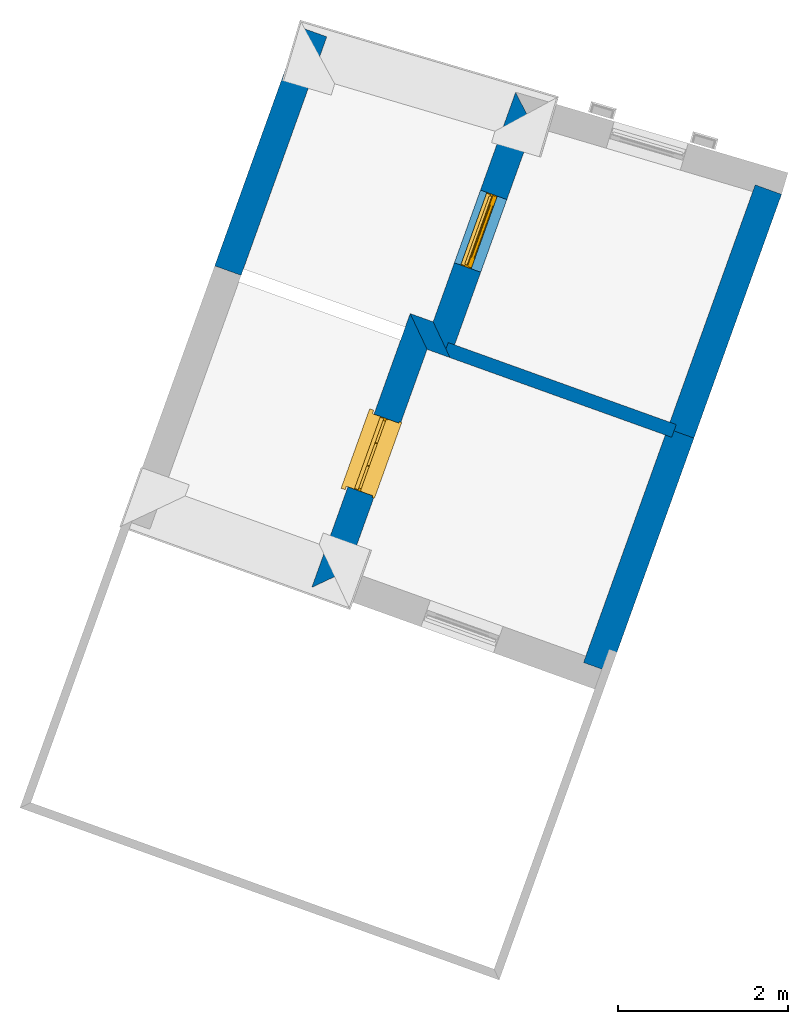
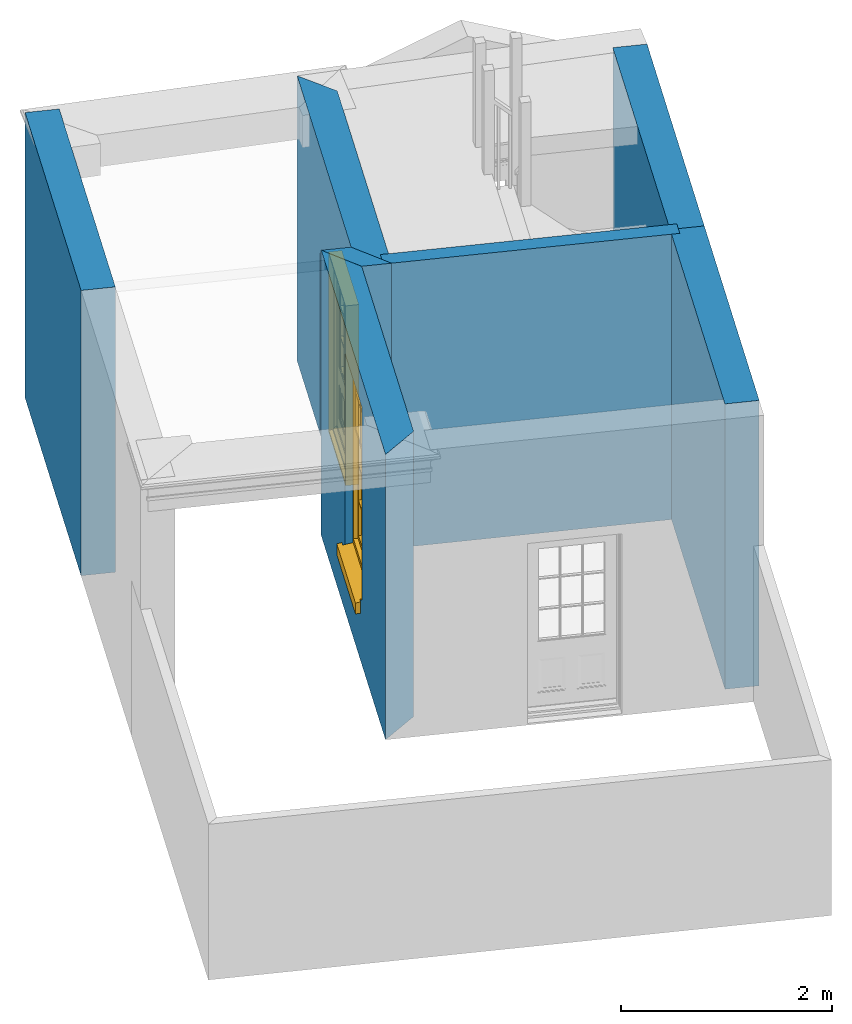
# One storey, part 2 of 4: 7 walls, 1 door, 1 window, 2 openings.
"""IFC4 building model written with IfcOpenShell, lengths in metres."""

from ifc_helpers import new_model, si_unit, frame, origin, origin_with_axes, place, context, subcontext, project, spatial, polyline, outline, extrude, faceted_brep, source, transform, mapped, material, layer, layer_set, layer_usage, type_object, type_shapes, element, fill, save


model = new_model("IFC4")

# Units and contexts
model_context = context("Model", 3, world=origin_with_axes())
body_context = subcontext(model_context, "Body", "Model", "MODEL_VIEW")
ifc_project = project(units=[si_unit("PLANEANGLEUNIT", "RADIAN"), si_unit("MASSUNIT", "GRAM", prefix="KILO"), si_unit("FORCEUNIT", "NEWTON", prefix="KILO"), si_unit("LENGTHUNIT", "METRE"), si_unit("AREAUNIT", "SQUARE_METRE"), si_unit("VOLUMEUNIT", "CUBIC_METRE")], contexts=[model_context, model_context])

# Sites, building, storey
site_1_placement = place(None, origin_with_axes())
site_1 = spatial("IfcSite", under=ifc_project, at=site_1_placement, Name="Tamar")
site_2_placement = place(site_1_placement, origin_with_axes())
site_2 = spatial("IfcSite", under=site_1, at=site_2_placement, Name="Site plot-24", CompositionType="ELEMENT")
building_placement = place(None, origin_with_axes())
building = spatial("IfcBuilding", under=site_2, at=building_placement, Name="Building plot-24", CompositionType="ELEMENT")
storey_placement = place(None, frame((0.0, 0.0, 26.0), z_axis=(0.0, 0.0, 1.0), x_axis=(1.0, 0.0, 0.0)))
storey = spatial("IfcBuildingStorey", under=building, at=storey_placement, Name="plot-24 0", CompositionType="ELEMENT", Elevation=26.0)

# Wall, opening, door
ifc_material_1 = material(Name="Masonry")
ifc_layer_1 = layer(ifc_material_1, 0.33, ventilated=False)
ifc_layer_set_1 = layer_set([ifc_layer_1], Name="exterior_0.08_0.25")
ifc_layer_usage_1 = layer_usage(ifc_layer_set_1, "AXIS2", "POSITIVE", -0.25)
wall_type_1 = type_object("IfcWallType", Name="exterior_0.08_0.25", PredefinedType="SOLIDWALL", material=ifc_layer_set_1)
wall_1_placement = place(storey_placement, frame((273.471030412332, 279.800107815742, 0.0), z_axis=(0.0, 0.0, 1.0), x_axis=(-0.338164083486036, -0.941087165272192, 0.0)))
wall_1 = element("IfcWall", 1, at=wall_1_placement, inside=storey, type_object=wall_type_1, material=ifc_layer_usage_1, Name="exterior", context=body_context, shape_type="SweptSolid", body=[
    extrude(outline(polyline([(0.0755449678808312, 0.0799999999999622), (-0.236078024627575, -0.249999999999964), (2.63870883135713, -0.249999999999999), (2.96870883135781, 0.0799999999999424), (0.0755449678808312, 0.0799999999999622)])), origin_with_axes(), (0.0, 0.0, 1.0), 3.3),
])
opening_1_placement = place(wall_1_placement, frame((0.989354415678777, 0.0, 0.0199999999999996)))
opening_1 = element("IfcOpeningElement", 2, at=opening_1_placement, cuts=wall_1, Name="My Opening", ObjectType="Opening", context=body_context, shape_type="SweptSolid", body=[
    extrude(outline(polyline([(0.0, -0.270000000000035), (0.910000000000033, -0.269999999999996), (0.910000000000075, 1.10000000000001), (4.10782519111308e-14, 1.09999999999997), (0.0, -0.270000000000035)])), origin_with_axes(), (0.0, 0.0, 1.0), 2.08),
])
door_type = type_object("IfcDoorType", Name="door_panelled", OperationType="SINGLE_SWING_LEFT", PredefinedType="NOTDEFINED")
shared_shape_1 = source(origin(), body_context, "Body", "Brep", [
    faceted_brep([(0.545, 0.195, 0.265), (0.745, 0.195, 0.265), (0.745, 0.2, 0.265), (0.545, 0.2, 0.265), (0.745, 0.2, 0.58), (0.545, 0.2, 0.58), (0.545, 0.195, 0.58), (0.515, 0.19, 0.235), (0.775, 0.19, 0.235), (0.745, 0.195, 0.58), (0.515, 0.19, 0.61), (0.515, 0.185, 0.235), (0.775, 0.185, 0.235), (0.775, 0.19, 0.61), (0.515, 0.185, 0.61), (0.785, 0.185, 0.225), (0.505, 0.185, 0.225), (0.775, 0.185, 0.61), (0.505, 0.185, 0.62), (0.785, 0.185, 0.62), (0.505, 0.18, 0.225), (0.785, 0.18, 0.225), (0.505, 0.18, 0.62), (0.785, 0.18, 0.62), (0.883, 0.18, 0.075), (0.898, 0.18, 0.075), (0.405, 0.18, 0.62), (0.405, 0.18, 0.225), (0.027, 0.18, 0.075), (0.785, 0.18, 0.82), (0.125, 0.18, 0.82), (0.405, 0.185, 0.62), (0.405, 0.185, 0.225), (0.898, 0.18, 2.068), (0.027, 0.17, 0.075), (0.883, 0.17, 0.075), (0.125, 0.18, 0.225), (0.012, 0.18, 0.075), (0.785, 0.19, 0.82), (0.125, 0.19, 0.82), (0.125, 0.18, 0.62), (0.125, 0.185, 0.62), (0.395, 0.185, 0.61), (0.395, 0.185, 0.235), (0.125, 0.185, 0.225), (0.785, 0.18, 1.895), (0.027, 0.14, 0.045), (0.883, 0.14, 0.045), (0.558333, 0.19, 0.83), (0.351667, 0.19, 0.83), (0.125, 0.18, 1.895), (0.125, 0.19, 1.895), (0.785, 0.19, 1.895), (0.012, 0.18, 2.068), (0.135, 0.185, 0.61), (0.395, 0.19, 0.61), (0.395, 0.19, 0.235), (0.135, 0.185, 0.235), (0.027, 0.14, 0.027), (0.883, 0.14, 0.027), (0.568333, 0.19, 0.83), (0.558333, 0.22, 0.83), (0.351667, 0.22, 0.83), (0.341667, 0.19, 0.83), (0.135, 0.19, 1.185), (0.135, 0.19, 1.53), (0.775, 0.19, 1.53), (0.775, 0.19, 1.185), (0.135, 0.19, 0.61), (0.365, 0.195, 0.58), (0.365, 0.195, 0.265), (0.135, 0.19, 0.235), (0.568333, 0.19, 1.175), (0.558333, 0.19, 1.175), (0.775, 0.19, 0.83), (0.558333, 0.22, 1.175), (0.785, 0.22, 0.82), (0.125, 0.22, 0.82), (0.351667, 0.22, 1.175), (0.351667, 0.19, 1.175), (0.341667, 0.19, 1.175), (0.135, 0.19, 0.83), (0.135, 0.19, 1.175), (0.135, 0.22, 1.185), (0.135, 0.22, 1.53), (0.135, 0.19, 1.54), (0.351667, 0.19, 1.885), (0.558333, 0.19, 1.885), (0.775, 0.22, 1.53), (0.775, 0.22, 1.185), (0.775, 0.19, 1.175), (0.775, 0.19, 1.54), (0.165, 0.195, 0.58), (0.365, 0.2, 0.58), (0.365, 0.2, 0.265), (0.165, 0.195, 0.265), (0.568333, 0.22, 0.83), (0.568333, 0.22, 1.175), (0.568333, 0.19, 1.185), (0.558333, 0.19, 1.185), (0.775, 0.22, 0.83), (0.785, 0.23, 0.82), (0.125, 0.23, 0.82), (0.341667, 0.22, 0.83), (0.341667, 0.22, 1.175), (0.351667, 0.19, 1.185), (0.341667, 0.19, 1.185), (0.135, 0.22, 0.83), (0.341667, 0.22, 1.185), (0.125, 0.22, 1.895), (0.341667, 0.22, 1.53), (0.341667, 0.19, 1.53), (0.135, 0.19, 1.885), (0.341667, 0.19, 1.54), (0.341667, 0.19, 1.885), (0.558333, 0.22, 1.885), (0.351667, 0.22, 1.885), (0.568333, 0.19, 1.885), (0.785, 0.22, 1.895), (0.568333, 0.22, 1.185), (0.568333, 0.19, 1.53), (0.568333, 0.22, 1.53), (0.568333, 0.19, 1.54), (0.775, 0.19, 1.885), (0.165, 0.2, 0.58), (0.165, 0.2, 0.265), (0.775, 0.22, 1.175), (0.558333, 0.19, 1.53), (0.351667, 0.22, 1.185), (0.558333, 0.22, 1.185), (0.505, 0.23, 0.62), (0.405, 0.23, 0.62), (0.125, 0.23, 1.895), (0.785, 0.23, 1.895), (0.351667, 0.19, 1.53), (0.135, 0.22, 1.175), (0.135, 0.22, 1.54), (0.341667, 0.22, 1.54), (0.135, 0.22, 1.885), (0.351667, 0.19, 1.54), (0.558333, 0.22, 1.54), (0.558333, 0.19, 1.54), (0.351667, 0.22, 1.54), (0.775, 0.22, 1.54), (0.568333, 0.22, 1.54), (0.775, 0.22, 1.885), (0.558333, 0.22, 1.53), (0.405, 0.23, 0.225), (0.505, 0.23, 0.225), (0.125, 0.23, 0.62), (0.785, 0.23, 0.62), (0.012, 0.23, 2.068), (0.898, 0.23, 2.068), (0.351667, 0.22, 1.53), (0.341667, 0.22, 1.885), (0.568333, 0.22, 1.885), (0.405, 0.225, 0.225), (0.405, 0.225, 0.62), (0.505, 0.225, 0.62), (0.505, 0.225, 0.225), (0.898, 0.23, 0.027), (0.012, 0.23, 0.027), (0.125, 0.225, 0.62), (0.785, 0.225, 0.62), (0.395, 0.225, 0.235), (0.395, 0.225, 0.61), (0.125, 0.23, 0.225), (0.125, 0.225, 0.225), (0.515, 0.225, 0.61), (0.515, 0.225, 0.235), (0.785, 0.23, 0.225), (0.785, 0.225, 0.225), (0.135, 0.225, 0.61), (0.775, 0.225, 0.61), (0.135, 0.225, 0.235), (0.395, 0.22, 0.235), (0.395, 0.22, 0.61), (0.515, 0.22, 0.61), (0.515, 0.22, 0.235), (0.775, 0.225, 0.235), (0.135, 0.22, 0.61), (0.775, 0.22, 0.61), (0.135, 0.22, 0.235), (0.365, 0.215, 0.265), (0.365, 0.215, 0.58), (0.545, 0.215, 0.58), (0.545, 0.215, 0.265), (0.775, 0.22, 0.235), (0.165, 0.215, 0.58), (0.745, 0.215, 0.58), (0.165, 0.215, 0.265), (0.365, 0.21, 0.58), (0.365, 0.21, 0.265), (0.545, 0.21, 0.58), (0.545, 0.21, 0.265), (0.745, 0.215, 0.265), (0.165, 0.21, 0.58), (0.745, 0.21, 0.58), (0.165, 0.21, 0.265), (0.745, 0.21, 0.265), (0.885, 0.178, 0.025), (0.025, 0.178, 0.025), (0.025, 0.15, 0.025), (0.885, 0.15, 0.025), (0.9, 0.23, 0.025), (0.01, 0.23, 0.025), (0.9, 0.178, 0.025), (0.91, 0.23, 0.0), (0.0, 0.23, 0.0), (0.01, 0.178, 0.025), (0.9, 0.178, 2.07), (0.9, 0.23, 2.07), (0.885, 0.178, 2.055), (0.91, 0.23, 2.08), (0.01, 0.23, 2.07), (0.0, 0.23, 2.08), (0.01, 0.178, 2.07), (0.025, 0.178, 2.055), (0.0, 0.1, 2.08), (0.91, 0.1, 2.08), (0.01, 0.1, 2.07), (0.9, 0.1, 2.07), (0.01, 0.15, 2.07), (0.9, 0.15, 2.07), (0.0, 0.1, 0.0), (0.91, 0.1, 0.0), (0.01, 0.1, 0.025), (0.9, 0.1, 0.025), (0.01, 0.15, 0.025), (0.025, 0.15, 2.055), (0.9, 0.15, 0.025), (0.885, 0.15, 2.055), (0.898, 0.18, 0.027), (0.012, 0.18, 0.027), (0.883, 0.18, 0.027), (0.027, 0.18, 0.027)], [[[0, 1, 2, 3]], [[2, 4, 5, 3]], [[0, 3, 5, 6]], [[1, 0, 7, 8]], [[9, 4, 2, 1]], [[9, 6, 5, 4]], [[0, 6, 10, 7]], [[8, 7, 11, 12]], [[8, 13, 9, 1]], [[13, 10, 6, 9]], [[7, 10, 14, 11]], [[15, 12, 11, 16]], [[12, 17, 13, 8]], [[17, 14, 10, 13]], [[18, 16, 11, 14]], [[15, 19, 17, 12]], [[15, 16, 20, 21]], [[14, 17, 19, 18]], [[16, 18, 22, 20]], [[21, 23, 19, 15]], [[24, 25, 21, 20]], [[23, 22, 18, 19]], [[20, 22, 26, 27]], [[23, 21, 25]], [[28, 24, 20, 27]], [[22, 23, 29]], [[29, 30, 26, 22]], [[27, 26, 31, 32]], [[23, 25, 33, 29]], [[34, 35, 24, 28]], [[28, 27, 36, 37]], [[38, 39, 30, 29]], [[26, 30, 40]], [[26, 40, 41, 31]], [[42, 43, 32, 31]], [[32, 44, 36, 27]], [[33, 45, 29]], [[46, 47, 35, 34]], [[36, 40, 37]], [[39, 38, 48, 49]], [[50, 30, 39, 51]], [[29, 45, 52, 38]], [[53, 37, 40, 30]], [[44, 41, 40, 36]], [[31, 41, 54, 42]], [[43, 42, 55, 56]], [[57, 44, 32, 43]], [[50, 45, 33, 53]], [[47, 46, 58, 59]], [[60, 48, 38]], [[49, 48, 61, 62]], [[49, 63, 39]], [[50, 53, 30]], [[51, 39, 64, 65]], [[45, 50, 51, 52]], [[66, 67, 38, 52]], [[57, 54, 41, 44]], [[42, 54, 68, 55]], [[56, 55, 69, 70]], [[56, 71, 57, 43]], [[60, 72, 73, 48]], [[60, 38, 74]], [[48, 73, 75, 61]], [[76, 77, 62, 61]], [[62, 78, 79, 49]], [[49, 79, 80, 63]], [[63, 81, 39]], [[82, 64, 39]], [[65, 64, 83, 84]], [[85, 51, 65]], [[52, 51, 86, 87]], [[88, 89, 67, 66]], [[90, 38, 67]], [[91, 66, 52]], [[71, 68, 54, 57]], [[55, 68, 92, 69]], [[69, 93, 94, 70]], [[70, 95, 71, 56]], [[96, 97, 72, 60]], [[73, 72, 98, 99]], [[74, 38, 90]], [[100, 96, 60, 74]], [[75, 73, 79, 78]], [[61, 75, 97, 96]], [[101, 102, 77, 76]], [[77, 103, 62]], [[96, 76, 61]], [[103, 104, 78, 62]], [[80, 79, 105, 106]], [[63, 80, 104, 103]], [[81, 63, 103, 107]], [[81, 82, 39]], [[106, 64, 82, 80]], [[106, 108, 83, 64]], [[84, 83, 77, 109]], [[110, 111, 65, 84]], [[112, 51, 85]], [[113, 85, 65, 111]], [[114, 86, 51]], [[115, 87, 86, 116]], [[117, 52, 87]], [[118, 76, 89, 88]], [[119, 98, 67, 89]], [[120, 121, 88, 66]], [[67, 98, 72, 90]], [[91, 122, 120, 66]], [[91, 52, 123]], [[95, 92, 68, 71]], [[69, 92, 124, 93]], [[94, 93, 124, 125]], [[94, 125, 95, 70]], [[72, 97, 126, 90]], [[127, 99, 98, 120]], [[99, 105, 79, 73]], [[74, 90, 126, 100]], [[96, 100, 76]], [[128, 129, 75, 78]], [[97, 75, 129, 119]], [[130, 131, 102, 101]], [[109, 77, 102, 132]], [[133, 101, 76, 118]], [[77, 107, 103]], [[78, 104, 108, 128]], [[111, 106, 105, 134]], [[104, 80, 82, 135]], [[107, 135, 82, 81]], [[110, 108, 106, 111]], [[104, 135, 83, 108]], [[83, 135, 77]], [[136, 84, 109]], [[110, 84, 136, 137]], [[114, 51, 112]], [[85, 136, 138, 112]], [[113, 137, 136, 85]], [[111, 134, 139, 113]], [[86, 114, 113, 139]], [[140, 141, 87, 115]], [[139, 142, 116, 86]], [[109, 118, 115, 116]], [[117, 123, 52]], [[117, 87, 141, 122]], [[126, 89, 76]], [[143, 118, 88]], [[120, 98, 119, 121]], [[119, 89, 126, 97]], [[144, 143, 88, 121]], [[144, 122, 91, 143]], [[127, 120, 122, 141]], [[143, 91, 123, 145]], [[124, 92, 95, 125]], [[146, 129, 99, 127]], [[99, 129, 128, 105]], [[100, 126, 76]], [[121, 119, 129, 146]], [[147, 131, 130, 148]], [[131, 149, 102]], [[130, 101, 150]], [[102, 151, 132]], [[118, 109, 132, 133]], [[101, 133, 152]], [[107, 77, 135]], [[153, 128, 108, 110]], [[134, 105, 128, 153]], [[109, 138, 136]], [[153, 110, 137, 142]], [[154, 114, 112, 138]], [[137, 113, 114, 154]], [[141, 139, 134, 127]], [[141, 140, 142, 139]], [[144, 140, 115, 155]], [[142, 137, 154, 116]], [[155, 115, 118]], [[116, 154, 109]], [[117, 155, 145, 123]], [[122, 144, 155, 117]], [[143, 145, 118]], [[121, 146, 140, 144]], [[146, 127, 134, 153]], [[156, 157, 131, 147]], [[148, 130, 158, 159]], [[148, 160, 161, 147]], [[157, 162, 149, 131]], [[161, 151, 102, 149]], [[101, 152, 160, 150]], [[163, 158, 130, 150]], [[151, 152, 133, 132]], [[154, 138, 109]], [[142, 140, 146, 153]], [[145, 155, 118]], [[157, 156, 164, 165]], [[147, 166, 167, 156]], [[168, 169, 159, 158]], [[170, 148, 159, 171]], [[148, 170, 160]], [[166, 147, 161]], [[172, 162, 157, 165]], [[166, 149, 162, 167]], [[166, 161, 149]], [[150, 160, 170]], [[163, 173, 168, 158]], [[171, 163, 150, 170]], [[174, 164, 156, 167]], [[175, 176, 165, 164]], [[169, 168, 177, 178]], [[171, 159, 169, 179]], [[167, 162, 172, 174]], [[176, 180, 172, 165]], [[179, 173, 163, 171]], [[181, 177, 168, 173]], [[164, 174, 182, 175]], [[183, 184, 176, 175]], [[178, 177, 185, 186]], [[179, 169, 178, 187]], [[174, 172, 180, 182]], [[184, 188, 180, 176]], [[187, 181, 173, 179]], [[189, 185, 177, 181]], [[175, 182, 190, 183]], [[191, 184, 183, 192]], [[185, 193, 194, 186]], [[187, 178, 186, 195]], [[182, 180, 188, 190]], [[191, 196, 188, 184]], [[195, 189, 181, 187]], [[197, 193, 185, 189]], [[183, 190, 198, 192]], [[198, 196, 191, 192]], [[194, 193, 197, 199]], [[195, 186, 194, 199]], [[188, 196, 198, 190]], [[197, 189, 195, 199]], [[200, 201, 202, 203]], [[201, 200, 204, 205]], [[206, 204, 200]], [[204, 207, 208, 205]], [[209, 201, 205]], [[210, 211, 204, 206]], [[206, 200, 212, 210]], [[211, 213, 207, 204]], [[214, 205, 208, 215]], [[216, 217, 201, 209]], [[205, 214, 216, 209]], [[216, 214, 211, 210]], [[210, 212, 217, 216]], [[214, 215, 213, 211]], [[218, 219, 213, 215]], [[219, 218, 220, 221]], [[221, 220, 222, 223]], [[215, 208, 224, 218]], [[225, 224, 208, 207]], [[224, 226, 220, 218]], [[224, 225, 227, 226]], [[219, 225, 207, 213]], [[228, 222, 220, 226]], [[219, 221, 227, 225]], [[226, 227, 203, 202]], [[202, 229, 222, 228]], [[228, 226, 202]], [[227, 221, 223, 230]], [[230, 203, 227]], [[217, 229, 202, 201]], [[231, 223, 222, 229]], [[230, 223, 231, 203]], [[231, 229, 217, 212]], [[212, 200, 203, 231]], [[33, 152, 151, 53]], [[25, 160, 152, 33]], [[161, 37, 53, 151]], [[232, 160, 25]], [[161, 233, 37]], [[160, 232, 234]], [[24, 234, 232, 25]], [[233, 161, 235]], [[37, 233, 235, 28]], [[161, 160, 234, 235]], [[35, 47, 234, 24]], [[28, 235, 46, 34]], [[58, 235, 234, 59]], [[59, 234, 47]], [[58, 46, 235]]]),
])
type_shapes(door_type, [shared_shape_1])
door_placement = place(storey_placement, frame((272.882372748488, 278.960343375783, 0.0199999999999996), z_axis=(0.0, 0.0, 1.0), x_axis=(-0.307729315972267, -0.856389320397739, 0.0)))
door = element("IfcDoor", 3, at=door_placement, inside=storey, type_object=door_type, Name="circulation sahn door", OverallHeight=2.08, OverallWidth=0.91, context=body_context, shape_type="MappedRepresentation", body=[
    mapped(shared_shape_1, transform((0.0, 0.0, 0.0), scale=1.0)),
])
fill(opening_1, door)

# Wall
wall_2_placement = place(storey_placement, frame((272.494172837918, 277.081581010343, 0.0), z_axis=(0.0, 0.0, 1.0), x_axis=(-0.941087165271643, 0.338164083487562, 0.0)))
element("IfcWall", 4, at=wall_2_placement, inside=storey, type_object=wall_type_1, material=ifc_layer_usage_1, Name="exterior", context=body_context, shape_type="SweptSolid", body=[
    extrude(outline(polyline([(-0.08000000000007, 0.0800000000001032), (0.250000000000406, -0.250000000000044), (0.537473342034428, -0.24999999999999), (0.207473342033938, 0.0800000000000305), (-0.08000000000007, 0.0800000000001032)])), origin_with_axes(), (0.0, 0.0, 1.0), 3.3),
])

# Wall, opening, window
wall_3_placement = place(storey_placement, frame((272.223635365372, 277.178794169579, 0.0), z_axis=(0.0, 0.0, 1.0), x_axis=(-0.338164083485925, -0.941087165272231, 0.0)))
wall_3 = element("IfcWall", 5, at=wall_3_placement, inside=storey, type_object=wall_type_1, material=ifc_layer_usage_1, Name="exterior", context=body_context, shape_type="SweptSolid", body=[
    extrude(outline(polyline([(0.0800000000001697, 0.0799999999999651), (-0.250000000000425, -0.249999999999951), (3.1790710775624, -0.249999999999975), (2.84907107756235, 0.0799999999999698), (0.0800000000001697, 0.0799999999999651)])), origin_with_axes(), (0.0, 0.0, 1.0), 3.3),
])
opening_2_placement = place(wall_3_placement, frame((1.00953553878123, 0.0, 0.75)))
opening_2 = element("IfcOpeningElement", 6, at=opening_2_placement, cuts=wall_3, Name="My Opening", ObjectType="Opening", context=body_context, shape_type="SweptSolid", body=[
    extrude(outline(polyline([(0.0, -0.26999999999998), (0.90999999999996, -0.270000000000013), (0.90999999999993, 1.09999999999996), (-3.04201108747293e-14, 1.1), (0.0, -0.26999999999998)])), origin_with_axes(), (0.0, 0.0, 1.0), 2.23),
])
window_type = type_object("IfcWindowType", Name="sash_big_taller", PartitioningType="DOUBLE_PANEL_HORIZONTAL", PredefinedType="NOTDEFINED")
shared_shape_2 = source(origin(), body_context, "Body", "Brep", [
    faceted_brep([(0.033125, 0.145, 1.385209), (0.01, 0.145, 1.385209), (0.033125, 0.145, 1.786042), (0.876875, 0.145, 1.385209), (0.876875, 0.145, 1.786042), (0.9, 0.145, 1.385209), (0.876875, 0.145, 1.796042), (0.876875, 0.145, 2.196875), (0.9, 0.145, 2.22), (0.033125, 0.145, 2.196875), (0.033125, 0.145, 1.796042), (0.01, 0.145, 2.22), (0.876875, 0.115, 1.786042), (0.876875, 0.115, 1.385209), (0.9, 0.115, 1.347084), (0.033125, 0.115, 2.196875), (0.01, 0.115, 2.22), (0.033125, 0.115, 1.796042), (0.01, 0.115, 1.347084), (0.033125, 0.115, 1.385209), (0.033125, 0.115, 1.786042), (0.876875, 0.115, 2.196875), (0.876875, 0.115, 1.796042), (0.9, 0.115, 2.22), (0.033125, 0.145, 1.347084), (0.01, 0.145, 1.347084), (0.033125, 0.145, 0.94625), (0.876875, 0.145, 1.347084), (0.876875, 0.145, 0.94625), (0.9, 0.145, 1.347084), (0.876875, 0.145, 0.52625), (0.876875, 0.145, 0.125417), (0.9, 0.145, 0.077167), (0.033125, 0.145, 0.125417), (0.033125, 0.145, 0.52625), (0.01, 0.145, 0.077167), (-0.0425, 0.0, 0.01), (-0.0425, -0.05, 0.001667), (0.0, 0.0, 0.01), (0.9525, 0.0, 0.01), (0.91, 0.0, 0.01), (0.9525, -0.05, 0.001667), (-0.02, 0.33, 0.077167), (0.0, 0.33, 0.077167), (-0.02, 0.36, 0.077167), (0.0, 0.19, 0.077167), (0.01, 0.19, 0.077167), (0.91, 0.19, 0.077167), (0.91, 0.33, 0.077167), (0.9, 0.19, 0.077167), (0.93, 0.33, 0.077167), (0.93, 0.36, 0.077167), (0.01, 0.175, 1.385209), (0.9, 0.175, 1.385209), (0.876875, 0.175, 0.125417), (0.876875, 0.175, 0.52625), (0.9, 0.175, 0.077167), (0.876875, 0.175, 0.94625), (0.876875, 0.175, 1.347084), (0.033125, 0.175, 0.125417), (0.01, 0.175, 0.077167), (0.033125, 0.175, 0.52625), (0.033125, 0.175, 1.347084), (0.033125, 0.175, 0.94625), (-0.02, 0.33, 0.052167), (-0.02, 0.36, 0.052167), (0.93, 0.36, 0.052167), (0.93, 0.33, 0.052167), (0.91, 0.33, 0.052167), (0.0, 0.33, 0.052167), (0.91, 0.1, 0.026667), (0.0, 0.1, 0.026667), (-0.0425, -0.05, -0.123333), (0.9525, -0.05, -0.123333), (-0.0425, 0.0, -0.123333), (0.9525, 0.0, -0.123333), (0.01, 0.19, 2.22), (0.9, 0.19, 2.22), (0.0, 0.19, 2.23), (0.91, 0.19, 2.23), (0.01, 0.1, 0.077167), (0.9, 0.1, 0.077167), (0.592292, 0.145, 0.125417), (0.592292, 0.175, 0.125417), (0.317708, 0.175, 0.125417), (0.317708, 0.145, 0.125417), (0.592292, 0.145, 0.53625), (0.317708, 0.145, 0.53625), (0.317708, 0.145, 0.52625), (0.592292, 0.145, 0.52625), (0.592292, 0.175, 0.53625), (0.317708, 0.175, 0.53625), (0.592292, 0.115, 1.796042), (0.592292, 0.145, 1.796042), (0.317708, 0.145, 1.796042), (0.317708, 0.115, 1.796042), (0.317708, 0.115, 1.786042), (0.592292, 0.115, 1.786042), (0.317708, 0.145, 1.786042), (0.592292, 0.145, 1.786042), (0.602292, 0.115, 1.786042), (0.592292, 0.115, 1.385209), (0.602292, 0.115, 1.385209), (0.602292, 0.145, 1.385209), (0.592292, 0.145, 1.385209), (0.602292, 0.145, 1.786042), (0.876875, 0.145, 0.53625), (0.876875, 0.175, 0.53625), (0.602292, 0.175, 0.53625), (0.602292, 0.145, 0.53625), (0.317708, 0.175, 0.52625), (0.307708, 0.175, 0.125417), (0.307708, 0.175, 0.52625), (0.602292, 0.175, 0.52625), (0.602292, 0.175, 0.125417), (0.592292, 0.175, 0.52625), (0.307708, 0.175, 0.53625), (0.033125, 0.175, 0.53625), (0.317708, 0.175, 1.347084), (0.317708, 0.175, 0.94625), (0.307708, 0.175, 0.94625), (0.307708, 0.175, 1.347084), (0.602292, 0.175, 1.347084), (0.602292, 0.175, 0.94625), (0.592292, 0.175, 0.94625), (0.592292, 0.175, 1.347084), (0.307708, 0.145, 0.52625), (0.307708, 0.145, 0.125417), (0.307708, 0.145, 0.53625), (0.033125, 0.145, 0.53625), (0.307708, 0.145, 1.347084), (0.307708, 0.145, 0.94625), (0.592292, 0.145, 1.347084), (0.592292, 0.145, 0.94625), (0.317708, 0.145, 0.94625), (0.317708, 0.145, 1.347084), (0.602292, 0.145, 0.94625), (0.602292, 0.145, 1.347084), (0.602292, 0.145, 0.52625), (0.602292, 0.145, 0.125417), (0.307708, 0.115, 1.796042), (0.307708, 0.115, 1.786042), (0.307708, 0.115, 1.385209), (0.317708, 0.115, 1.385209), (0.317708, 0.115, 2.196875), (0.307708, 0.115, 2.196875), (0.602292, 0.115, 2.196875), (0.592292, 0.115, 2.196875), (0.602292, 0.115, 1.796042), (0.602292, 0.145, 1.796042), (0.307708, 0.145, 1.796042), (0.307708, 0.145, 2.196875), (0.317708, 0.145, 2.196875), (0.592292, 0.145, 2.196875), (0.602292, 0.145, 2.196875), (0.307708, 0.145, 1.786042), (0.317708, 0.145, 1.385209), (0.307708, 0.145, 1.385209), (0.876875, 0.175, 0.93625), (0.033125, 0.175, 0.93625), (0.033125, 0.145, 0.93625), (0.876875, 0.145, 0.93625), (0.91, 0.1, 2.23), (0.9, 0.1, 2.22), (0.01, 0.1, 2.22), (0.0, 0.1, 2.23), (0.91, 0.0, 0.0), (0.0, 0.0, 0.0), (0.91, 0.33, 0.0), (0.0, 0.33, 0.0), (0.317708, 0.145, 0.93625), (0.592292, 0.145, 0.93625), (0.317708, 0.175, 0.93625), (0.307708, 0.175, 0.93625), (0.602292, 0.175, 0.93625), (0.592292, 0.175, 0.93625), (0.307708, 0.145, 0.93625), (0.602292, 0.145, 0.93625)], [[[0, 1, 2]], [[3, 4, 5]], [[6, 7, 8]], [[9, 10, 11]], [[12, 13, 14]], [[15, 16, 17]], [[18, 19, 20]], [[21, 22, 23]], [[24, 25, 26]], [[27, 28, 29]], [[30, 31, 32]], [[33, 34, 35]], [[14, 27, 29]], [[25, 24, 18]], [[36, 37, 38]], [[39, 40, 41]], [[42, 43, 44]], [[45, 46, 43]], [[47, 48, 49]], [[50, 51, 48]], [[1, 0, 52]], [[5, 53, 3]], [[54, 55, 56]], [[57, 58, 53]], [[59, 60, 61]], [[62, 63, 52]], [[48, 43, 46, 49]], [[51, 44, 43, 48]], [[64, 42, 44, 65]], [[65, 44, 51, 66]], [[66, 51, 50, 67]], [[65, 66, 68, 69]], [[60, 56, 49, 46]], [[70, 71, 38, 40]], [[37, 41, 40, 38]], [[37, 72, 73, 41]], [[74, 75, 73, 72]], [[8, 11, 76, 77]], [[76, 78, 79, 77]], [[32, 35, 80, 81]], [[81, 80, 71, 70]], [[82, 83, 84, 85]], [[86, 87, 88, 89]], [[86, 90, 91, 87]], [[92, 93, 94, 95]], [[92, 95, 96, 97]], [[96, 98, 99, 97]], [[100, 97, 101, 102]], [[103, 104, 99, 105]], [[97, 99, 104, 101]], [[102, 103, 105, 100]], [[106, 107, 108, 109]], [[110, 84, 111, 112]], [[113, 114, 83, 115]], [[116, 112, 61, 117]], [[90, 115, 110, 91]], [[118, 119, 120, 121]], [[122, 123, 124, 125]], [[113, 108, 107, 55]], [[126, 112, 111, 127]], [[34, 61, 112, 126]], [[89, 115, 83, 82]], [[88, 110, 115, 89]], [[85, 84, 110, 88]], [[128, 116, 117, 129]], [[130, 121, 120, 131]], [[132, 125, 124, 133]], [[134, 119, 118, 135]], [[136, 123, 122, 137]], [[138, 113, 55, 30]], [[139, 114, 113, 138]], [[138, 30, 106, 109]], [[88, 126, 127, 85]], [[138, 89, 82, 139]], [[137, 132, 133, 136]], [[128, 129, 34, 126]], [[135, 130, 131, 134]], [[140, 17, 20, 141]], [[96, 141, 142, 143]], [[144, 145, 140, 95]], [[146, 147, 92, 148]], [[100, 12, 22, 148]], [[149, 6, 4, 105]], [[94, 150, 151, 152]], [[149, 93, 153, 154]], [[99, 98, 94, 93]], [[155, 2, 10, 150]], [[156, 157, 155, 98]], [[141, 155, 157, 142]], [[20, 2, 155, 141]], [[143, 156, 98, 96]], [[140, 150, 10, 17]], [[145, 151, 150, 140]], [[147, 153, 93, 92]], [[95, 94, 152, 144]], [[22, 6, 149, 148]], [[148, 149, 154, 146]], [[100, 105, 4, 12]], [[109, 86, 89, 138]], [[108, 113, 115, 90]], [[91, 110, 112, 116]], [[87, 128, 126, 88]], [[97, 100, 148, 92]], [[141, 96, 95, 140]], [[98, 155, 150, 94]], [[105, 99, 93, 149]], [[143, 101, 104, 156]], [[135, 118, 125, 132]], [[144, 152, 153, 147]], [[127, 111, 59, 33]], [[15, 9, 151, 145]], [[146, 154, 7, 21]], [[31, 54, 114, 139]], [[36, 74, 72, 37]], [[39, 41, 73, 75]], [[18, 14, 101, 143]], [[23, 16, 144, 147]], [[83, 56, 60, 84]], [[52, 53, 125, 118]], [[53, 52, 156, 104]], [[11, 8, 153, 152]], [[14, 18, 135, 132]], [[2, 1, 11, 10]], [[8, 5, 4, 6]], [[57, 53, 56, 158]], [[60, 52, 63, 159]], [[26, 25, 35, 160]], [[32, 29, 28, 161]], [[14, 23, 22, 12]], [[18, 20, 17, 16]], [[19, 0, 2, 20]], [[17, 10, 9, 15]], [[12, 4, 3, 13]], [[21, 7, 6, 22]], [[27, 58, 57, 28]], [[30, 55, 54, 31]], [[33, 59, 61, 34]], [[26, 63, 62, 24]], [[5, 8, 77, 53]], [[76, 11, 1, 52]], [[46, 45, 78, 76]], [[49, 77, 79, 47]], [[70, 162, 163, 81]], [[71, 80, 164, 165]], [[19, 142, 157, 0]], [[102, 13, 3, 103]], [[121, 130, 24, 62]], [[29, 32, 81, 14]], [[80, 35, 25, 18]], [[60, 46, 76, 52]], [[77, 49, 56, 53]], [[23, 14, 81, 163]], [[16, 164, 80, 18]], [[35, 85, 127]], [[127, 33, 35]], [[139, 82, 32]], [[32, 31, 139]], [[32, 82, 85, 35]], [[102, 101, 14]], [[14, 13, 102]], [[18, 143, 142]], [[142, 19, 18]], [[146, 21, 23]], [[23, 147, 146]], [[16, 15, 145]], [[145, 144, 16]], [[11, 152, 151]], [[151, 9, 11]], [[154, 153, 8]], [[8, 7, 154]], [[23, 163, 164, 16]], [[162, 165, 164, 163]], [[52, 118, 121]], [[121, 62, 52]], [[125, 53, 122]], [[58, 122, 53]], [[27, 137, 122, 58]], [[56, 83, 114]], [[114, 54, 56]], [[111, 84, 60]], [[60, 59, 111]], [[137, 27, 14]], [[14, 132, 137]], [[130, 135, 18]], [[18, 24, 130]], [[157, 156, 52]], [[52, 0, 157]], [[103, 3, 53]], [[53, 104, 103]], [[79, 78, 165, 162]], [[78, 45, 71, 165]], [[162, 70, 47, 79]], [[166, 75, 74, 167]], [[68, 66, 67]], [[48, 68, 67, 50]], [[69, 64, 65]], [[42, 64, 69, 43]], [[69, 68, 168, 169]], [[70, 68, 48, 47]], [[166, 168, 68, 70]], [[43, 69, 71, 45]], [[69, 169, 167, 71]], [[168, 166, 167, 169]], [[38, 167, 74, 36]], [[71, 167, 38]], [[39, 75, 166, 40]], [[40, 166, 70]], [[133, 134, 170, 171]], [[133, 124, 119, 134]], [[28, 57, 123, 136]], [[172, 91, 116, 173]], [[174, 108, 90, 175]], [[120, 173, 159, 63]], [[124, 175, 172, 119]], [[174, 123, 57, 158]], [[176, 173, 116, 128]], [[160, 159, 173, 176]], [[171, 175, 90, 86]], [[170, 172, 175, 171]], [[87, 91, 172, 170]], [[131, 120, 63, 26]], [[177, 174, 158, 161]], [[109, 108, 174, 177]], [[177, 161, 28, 136]], [[170, 176, 128, 87]], [[177, 171, 86, 109]], [[131, 26, 160, 176]], [[136, 133, 171, 177]], [[123, 174, 175, 124]], [[119, 172, 173, 120]], [[134, 131, 176, 170]], [[129, 117, 159, 160]], [[161, 158, 107, 106]], [[35, 34, 129]], [[35, 129, 160]], [[32, 106, 30]], [[32, 161, 106]], [[56, 55, 107]], [[56, 107, 158]], [[60, 117, 61]], [[60, 159, 117]]]),
])
type_shapes(window_type, [shared_shape_2])
window_placement = place(storey_placement, frame((271.62815317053, 276.320037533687, 0.75), z_axis=(0.0, 0.0, 1.0), x_axis=(-0.30772931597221, -0.856389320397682, 0.0)))
window = element("IfcWindow", 7, at=window_placement, inside=storey, type_object=window_type, Name="bedroom outside window", OverallHeight=2.23, OverallWidth=0.91, context=body_context, shape_type="MappedRepresentation", body=[
    mapped(shared_shape_2, transform((0.0, 0.0, 0.0), scale=1.0)),
])
fill(opening_2, window)

# Walls
ifc_material_2 = material(Name="Masonry")
ifc_layer_2 = layer(ifc_material_2, 0.33, ventilated=False)
ifc_layer_set_2 = layer_set([ifc_layer_2], Name="party_0.08_0.25")
ifc_layer_usage_2 = layer_usage(ifc_layer_set_2, "AXIS2", "POSITIVE", -0.25)
wall_type_2 = type_object("IfcWallType", Name="party_0.08_0.25", PredefinedType="SOLIDWALL", material=ifc_layer_set_2)
wall_4_placement = place(storey_placement, frame((274.190612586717, 273.359560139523, 0.0), z_axis=(0.0, 0.0, 1.0), x_axis=(0.338164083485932, 0.941087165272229, 0.0)))
element("IfcWall", 8, at=wall_4_placement, inside=storey, type_object=wall_type_2, material=ifc_layer_usage_2, Name="party", context=body_context, shape_type="SweptSolid", body=[
    extrude(outline(polyline([(1.40025904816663e-14, 0.0799999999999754), (-6.31296315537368e-15, -0.249999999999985), (2.92907107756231, -0.249999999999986), (2.92907107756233, 0.0799999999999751), (1.40025904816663e-14, 0.0799999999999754)])), origin_with_axes(), (0.0, 0.0, 1.0), 3.3),
])
wall_5_placement = place(storey_placement, frame((275.181119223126, 276.116071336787, 0.0), z_axis=(0.0, 0.0, 1.0), x_axis=(0.338164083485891, 0.941087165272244, 0.0)))
element("IfcWall", 9, at=wall_5_placement, inside=storey, type_object=wall_type_2, material=ifc_layer_usage_2, Name="party", context=body_context, shape_type="SweptSolid", body=[
    extrude(outline(polyline([(1.74309591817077e-14, 0.0799999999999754), (-1.70266153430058e-14, -0.249999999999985), (3.05239441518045, -0.249999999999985), (3.05239441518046, 0.0800000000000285), (1.74309591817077e-14, 0.0799999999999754)])), origin_with_axes(), (0.0, 0.0, 1.0), 3.3),
])
wall_6_placement = place(storey_placement, frame((270.930721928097, 280.551804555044, 0.0), z_axis=(0.0, 0.0, 1.0), x_axis=(-0.33816408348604, -0.94108716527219, 0.0)))
element("IfcWall", 10, at=wall_6_placement, inside=storey, type_object=wall_type_2, material=ifc_layer_usage_2, Name="party", context=body_context, shape_type="SweptSolid", body=[
    extrude(outline(polyline([(-0.249999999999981, 0.0799999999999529), (-0.249999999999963, -0.250000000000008), (2.73707989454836, -0.249999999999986), (2.73707989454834, 0.0799999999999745), (-0.249999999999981, 0.0799999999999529)])), origin_with_axes(), (0.0, 0.0, 1.0), 3.3),
])
ifc_material_3 = material(Name="Masonry")
ifc_layer_3 = layer(ifc_material_3, 0.16, ventilated=False)
ifc_layer_set_3 = layer_set([ifc_layer_3], Name="interior_0.08_0.08")
ifc_layer_usage_3 = layer_usage(ifc_layer_set_3, "AXIS2", "POSITIVE", -0.08)
wall_type_3 = type_object("IfcWallType", Name="interior_0.08_0.08", PredefinedType="SOLIDWALL", material=ifc_layer_set_3)
wall_7_placement = place(storey_placement, frame((275.181119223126, 276.116071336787, 0.0), z_axis=(0.0, 0.0, 1.0), x_axis=(-0.941087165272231, 0.338164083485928, 0.0)))
element("IfcWall", 11, at=wall_7_placement, inside=storey, type_object=wall_type_3, material=ifc_layer_usage_3, Name="interior", context=body_context, shape_type="SweptSolid", body=[
    extrude(outline(polyline([(1.43578618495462e-14, 0.0799999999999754), (-1.4312537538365e-14, -0.0799999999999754), (2.85515145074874, -0.079999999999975), (2.85515145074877, 0.0799999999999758), (1.43578618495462e-14, 0.0799999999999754)])), origin_with_axes(), (0.0, 0.0, 1.0), 3.3),
])

save(model, "model.ifc")
